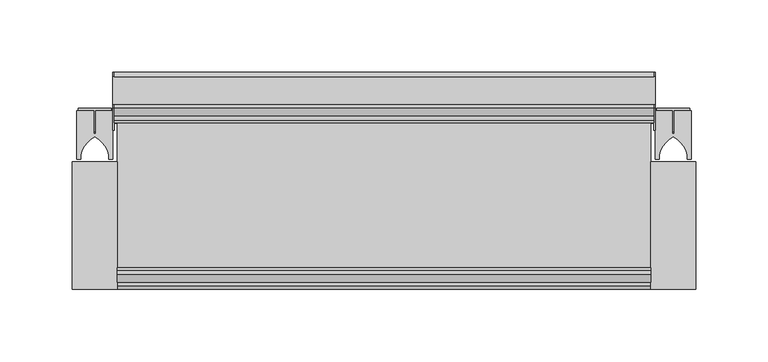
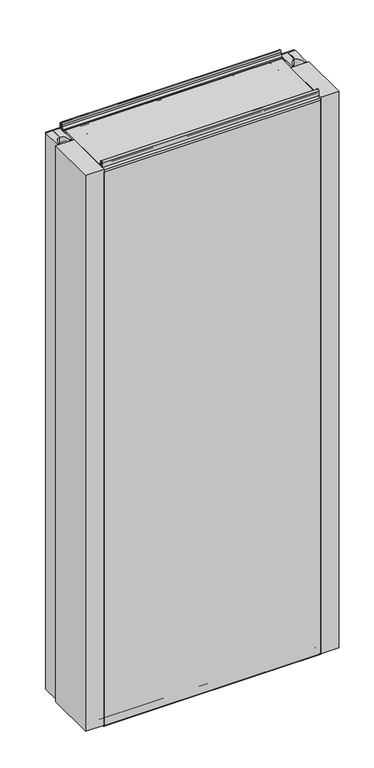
"""IFC4 building model written with IfcOpenShell, lengths in millimetres: plate geometry, Fronttop : Fronttop 150/1000."""

from ifc_helpers import new_model, si_unit, point, frame, frame_2d, origin, origin_with_axes, place, context, project, spatial, polyline, circle_curve, trimmed, segment, composite_curve, outline, extrude, source, transform, mapped, element, save
from ifc_brep_helpers import plane_surface, cylinder_surface, revolved_surface, advanced_brep


def plate_2fa59fed(model_context):
    return source(origin(), model_context, "Body", "SolidModel", [
        advanced_brep(
        [(-186.5, 124.0, 1008.0), (-186.5, 121.0, 1008.0), (-186.5, 121.0, 1004.0), (-186.5, 117.0, 1000.0), (-186.5, 115.0, 1000.0), (-186.5, 115.0, 1001.0), (-186.5, 117.0, 1001.0), (-186.5, 120.0, 1004.0), (-186.5, 120.0, 1008.0), (-186.5, 125.0, 1008.0), (-186.5, 125.0, 1000.0), (-186.5, 124.0, 1000.0), (186.5, 125.0, 1008.0), (186.5, 120.0, 1008.0), (186.5, 120.0, 1004.0), (186.5, 117.0, 1001.0), (186.5, 115.0, 1001.0), (186.5, 115.0, 1000.0), (186.5, 117.0, 1000.0), (186.5, 121.0, 1004.0), (186.5, 121.0, 1008.0), (186.5, 124.0, 1008.0), (186.5, 124.0, 1000.0), (186.5, 125.0, 1000.0), (-186.5, 117.0, 2.0), (186.5, 117.0, 2.0), (186.5, 115.0, 2.0), (-186.5, 115.0, 2.0), (-186.5, 119.0, 4.0), (186.5, 119.0, 4.0), (-186.5, 119.0, 8.0), (186.5, 119.0, 8.0), (-186.5, 126.0, 8.0), (186.5, 126.0, 8.0), (-186.5, 126.0, 0.0), (186.5, 126.0, 0.0), (-186.5, 129.0, -3.0), (186.5, 129.0, -3.0), (-186.5, 125.0, -3.0), (-187.5, 125.0, -3.0), (-187.5, 147.0, -3.0), (-186.5, 147.0, -3.0), (186.5, 147.0, -3.0), (187.5, 147.0, -3.0), (187.5, 125.0, -3.0), (186.5, 125.0, -3.0), (-186.5, 150.0, 0.0), (186.5, 150.0, 0.0), (-187.5, 150.0, 0.0), (-187.5, 150.0, 969.0), (-186.5, 150.0, 969.0), (186.5, 150.0, 969.0), (187.5, 150.0, 969.0), (187.5, 150.0, 0.0), (-186.5, 147.0, 972.0), (186.5, 147.0, 972.0), (-187.5, 147.0, 972.0), (-187.5, 128.0, 972.0), (-186.5, 128.0, 972.0), (186.5, 128.0, 972.0), (187.5, 128.0, 972.0), (187.5, 147.0, 972.0), (-186.5, 125.0, 975.0), (186.5, 125.0, 975.0), (-187.5, 125.0, 975.0), (-187.5, 125.0, 1000.0), (187.5, 125.0, 1000.0), (187.5, 125.0, 975.0), (-186.5, 124.0, 975.0), (186.5, 124.0, 975.0), (-186.5, 128.0, 971.0), (186.5, 128.0, 971.0), (-186.5, 147.0, 971.0), (186.5, 147.0, 971.0), (-186.5, 149.0, 969.0), (186.5, 149.0, 969.0), (-186.5, 149.0, 0.0), (186.5, 149.0, 0.0), (-186.5, 147.0, -2.0), (186.5, 147.0, -2.0), (-186.5, 129.0, -2.0), (186.5, 129.0, -2.0), (-186.5, 127.0, 0.0), (186.5, 127.0, 0.0), (-186.5, 127.0, 8.0), (186.5, 127.0, 8.0), (-186.5, 118.0, 8.0), (186.5, 118.0, 8.0), (-186.5, 118.0, 4.0), (186.5, 118.0, 4.0), (-186.5, 117.0, 3.0), (186.5, 117.0, 3.0), (-186.5, 115.0, 3.0), (186.5, 115.0, 3.0), (187.5, 110.0, 1000.0), (187.5, 110.0, 0.0), (187.5, 125.0, 0.0), (186.5, 125.0, 0.0), (186.5, 110.0, 0.0), (186.5, 110.0, 1000.0), (-187.5, 125.0, 0.0), (-187.5, 110.0, 0.0), (-187.5, 110.0, 1000.0), (-186.5, 110.0, 1000.0), (-186.5, 110.0, 0.0), (-186.5, 125.0, 0.0)],
        [
            (0, 1, circle_curve(frame((-186.5, 122.5, 1008.0), z_axis=(1.0, 0.0, 0.0), x_axis=(0.0, -1.0, 0.0)), 1.5)),
            (1, 2),
            (2, 3, circle_curve(frame((-186.5, 117.0, 1004.0), z_axis=(-1.0, 0.0, 0.0), x_axis=(0.0, -1.0, 0.0)), 4.0)),
            (3, 4),
            (4, 5),
            (5, 6),
            (6, 7, circle_curve(frame((-186.5, 117.0, 1004.0), z_axis=(1.0, 0.0, 0.0), x_axis=(0.0, -1.0, 0.0)), 3.0)),
            (7, 8),
            (8, 9, circle_curve(frame((-186.5, 122.5, 1008.0), z_axis=(-1.0, 0.0, 0.0), x_axis=(0.0, -1.0, 0.0)), 2.5)),
            (9, 10),
            (10, 11),
            (11, 0),
            (12, 13, circle_curve(frame((186.5, 122.5, 1008.0), z_axis=(1.0, 0.0, 0.0), x_axis=(0.0, -1.0, 0.0)), 2.5)),
            (13, 14),
            (14, 15, circle_curve(frame((186.5, 117.0, 1004.0), z_axis=(-1.0, 0.0, 0.0), x_axis=(0.0, -1.0, 0.0)), 3.0)),
            (15, 16),
            (16, 17),
            (17, 18),
            (18, 19, circle_curve(frame((186.5, 117.0, 1004.0), z_axis=(1.0, 0.0, 0.0), x_axis=(0.0, -1.0, 0.0)), 4.0)),
            (19, 20),
            (20, 21, circle_curve(frame((186.5, 122.5, 1008.0), z_axis=(-1.0, 0.0, 0.0), x_axis=(0.0, -1.0, 0.0)), 1.5)),
            (21, 22),
            (22, 23),
            (23, 12),
            (24, 25),
            (25, 26),
            (26, 27),
            (27, 24),
            (24, 28, circle_curve(frame((-186.5, 117.0, 4.0), z_axis=(1.0, 0.0, 0.0), x_axis=(0.0, -1.0, 0.0)), 2.0)),
            (28, 29),
            (29, 25, circle_curve(frame((186.5, 117.0, 4.0), z_axis=(-1.0, 0.0, 0.0), x_axis=(0.0, -1.0, 0.0)), 2.0)),
            (28, 30),
            (30, 31),
            (31, 29),
            (30, 32, circle_curve(frame((-186.5, 122.5, 8.0), z_axis=(-1.0, 0.0, 0.0), x_axis=(0.0, -1.0, 0.0)), 3.5)),
            (32, 33),
            (33, 31, circle_curve(frame((186.5, 122.5, 8.0), z_axis=(1.0, 0.0, 0.0), x_axis=(0.0, -1.0, 0.0)), 3.5)),
            (32, 34),
            (34, 35),
            (35, 33),
            (34, 36, circle_curve(frame((-186.5, 129.0, 0.0), z_axis=(1.0, 0.0, 0.0), x_axis=(0.0, -1.0, 0.0)), 3.0)),
            (36, 37),
            (37, 35, circle_curve(frame((186.5, 129.0, 0.0), z_axis=(-1.0, 0.0, 0.0), x_axis=(0.0, -1.0, 0.0)), 3.0)),
            (36, 38),
            (38, 39),
            (39, 40),
            (40, 41),
            (41, 42),
            (42, 43),
            (43, 44),
            (44, 45),
            (45, 37),
            (41, 46, circle_curve(frame((-186.5, 147.0, 0.0), z_axis=(1.0, 0.0, 0.0), x_axis=(0.0, -1.0, 0.0)), 3.0)),
            (46, 47),
            (47, 42, circle_curve(frame((186.5, 147.0, 0.0), z_axis=(-1.0, 0.0, 0.0), x_axis=(0.0, -1.0, 0.0)), 3.0)),
            (46, 48),
            (48, 49),
            (49, 50),
            (50, 51),
            (51, 52),
            (52, 53),
            (53, 47),
            (50, 54, circle_curve(frame((-186.5, 147.0, 969.0), z_axis=(1.0, 0.0, 0.0), x_axis=(0.0, -1.0, 0.0)), 3.0)),
            (54, 55),
            (55, 51, circle_curve(frame((186.5, 147.0, 969.0), z_axis=(-1.0, 0.0, 0.0), x_axis=(0.0, -1.0, 0.0)), 3.0)),
            (54, 56),
            (56, 57),
            (57, 58),
            (58, 59),
            (59, 60),
            (60, 61),
            (61, 55),
            (58, 62, circle_curve(frame((-186.5, 128.0, 975.0), z_axis=(-1.0, 0.0, 0.0), x_axis=(0.0, -1.0, 0.0)), 3.0)),
            (62, 63),
            (63, 59, circle_curve(frame((186.5, 128.0, 975.0), z_axis=(1.0, 0.0, 0.0), x_axis=(0.0, -1.0, 0.0)), 3.0)),
            (62, 64),
            (64, 65),
            (65, 10),
            (9, 12),
            (23, 66),
            (66, 67),
            (67, 63),
            (8, 13),
            (7, 14),
            (6, 15),
            (5, 16),
            (4, 17),
            (4, 3),
            (3, 18),
            (18, 17),
            (2, 19),
            (1, 20),
            (0, 21),
            (11, 68),
            (68, 69),
            (69, 22),
            (68, 70, circle_curve(frame((-186.5, 128.0, 975.0), z_axis=(1.0, 0.0, 0.0), x_axis=(0.0, -1.0, 0.0)), 4.0)),
            (70, 71),
            (71, 69, circle_curve(frame((186.5, 128.0, 975.0), z_axis=(-1.0, 0.0, 0.0), x_axis=(0.0, -1.0, 0.0)), 4.0)),
            (70, 72),
            (72, 73),
            (73, 71),
            (72, 74, circle_curve(frame((-186.5, 147.0, 969.0), z_axis=(-1.0, 0.0, 0.0), x_axis=(0.0, -1.0, 0.0)), 2.0)),
            (74, 75),
            (75, 73, circle_curve(frame((186.5, 147.0, 969.0), z_axis=(1.0, 0.0, 0.0), x_axis=(0.0, -1.0, 0.0)), 2.0)),
            (74, 76),
            (76, 77),
            (77, 75),
            (76, 78, circle_curve(frame((-186.5, 147.0, 0.0), z_axis=(-1.0, 0.0, 0.0), x_axis=(0.0, -1.0, 0.0)), 2.0)),
            (78, 79),
            (79, 77, circle_curve(frame((186.5, 147.0, 0.0), z_axis=(1.0, 0.0, 0.0), x_axis=(0.0, -1.0, 0.0)), 2.0)),
            (78, 80),
            (80, 81),
            (81, 79),
            (80, 82, circle_curve(frame((-186.5, 129.0, 0.0), z_axis=(-1.0, 0.0, 0.0), x_axis=(0.0, -1.0, 0.0)), 2.0)),
            (82, 83),
            (83, 81, circle_curve(frame((186.5, 129.0, 0.0), z_axis=(1.0, 0.0, 0.0), x_axis=(0.0, -1.0, 0.0)), 2.0)),
            (82, 84),
            (84, 85),
            (85, 83),
            (84, 86, circle_curve(frame((-186.5, 122.5, 8.0), z_axis=(1.0, 0.0, 0.0), x_axis=(0.0, -1.0, 0.0)), 4.5)),
            (86, 87),
            (87, 85, circle_curve(frame((186.5, 122.5, 8.0), z_axis=(-1.0, 0.0, 0.0), x_axis=(0.0, -1.0, 0.0)), 4.5)),
            (86, 88),
            (88, 89),
            (89, 87),
            (88, 90, circle_curve(frame((-186.5, 117.0, 4.0), z_axis=(-1.0, 0.0, 0.0), x_axis=(0.0, -1.0, 0.0)), 1.0)),
            (90, 91),
            (91, 89, circle_curve(frame((186.5, 117.0, 4.0), z_axis=(1.0, 0.0, 0.0), x_axis=(0.0, -1.0, 0.0)), 1.0)),
            (90, 92),
            (92, 93),
            (93, 91),
            (26, 93),
            (92, 27),
            (66, 94),
            (94, 95),
            (95, 96),
            (96, 44),
            (43, 53, circle_curve(frame((187.5, 147.0, 0.0), z_axis=(1.0, 0.0, 0.0), x_axis=(0.0, 1.0, 0.0)), 3.0)),
            (52, 61, circle_curve(frame((187.5, 147.0, 969.0), z_axis=(1.0, 0.0, 0.0), x_axis=(0.0, 1.0, 0.0)), 3.0)),
            (60, 67, circle_curve(frame((187.5, 128.0, 975.0), z_axis=(-1.0, 0.0, 0.0), x_axis=(0.0, 1.0, 0.0)), 3.0)),
            (45, 97),
            (97, 98),
            (98, 99),
            (99, 17),
            (18, 22),
            (99, 94),
            (98, 95),
            (97, 96),
            (64, 57, circle_curve(frame((-187.5, 128.0, 975.0), z_axis=(1.0, 0.0, 0.0), x_axis=(0.0, 1.0, 0.0)), 3.0)),
            (56, 49, circle_curve(frame((-187.5, 147.0, 969.0), z_axis=(-1.0, 0.0, 0.0), x_axis=(0.0, 1.0, 0.0)), 3.0)),
            (48, 40, circle_curve(frame((-187.5, 147.0, 0.0), z_axis=(-1.0, 0.0, 0.0), x_axis=(0.0, 1.0, 0.0)), 3.0)),
            (39, 100),
            (100, 101),
            (101, 102),
            (102, 65),
            (103, 104),
            (104, 105),
            (105, 38),
            (11, 3),
            (4, 103),
            (102, 103),
            (101, 104),
            (100, 105),
        ],
        [
            plane_surface(frame((-186.5, 0.0, 0.0), z_axis=(-1.0, 0.0, 0.0), x_axis=(0.0, 0.0, 1.0))),
            plane_surface(frame((186.5, 0.0, 0.0), z_axis=(1.0, 0.0, 0.0), x_axis=(0.0, 0.0, 1.0))),
            plane_surface(frame((-186.5, 117.0, 2.0), z_axis=(0.0, 0.0, -1.0), x_axis=(1.0, 0.0, 0.0))),
            cylinder_surface(frame((-186.5, 117.0, 4.0), z_axis=(-1.0, 0.0, 0.0), x_axis=(0.0, -1.0, 0.0)), 2.0),
            plane_surface(frame((-186.5, 119.0, 8.0), z_axis=(0.0, 1.0, 0.0), x_axis=(1.0, 0.0, 0.0))),
            revolved_surface(polyline([(186.5, 119.0, 8.0), (-186.5, 119.0, 8.0)]), (-186.5, 122.5, 8.0), (1.0, 0.0, 0.0)),
            plane_surface(frame((-186.5, 126.0, 0.0), z_axis=(0.0, -1.0, 0.0), x_axis=(1.0, 0.0, 0.0))),
            cylinder_surface(frame((-186.5, 129.0, 0.0), z_axis=(-1.0, 0.0, 0.0), x_axis=(0.0, -1.0, 0.0)), 3.0),
            plane_surface(frame((-186.5, 147.0, -3.0), z_axis=(0.0, 0.0, -1.0), x_axis=(1.0, 0.0, 0.0))),
            cylinder_surface(frame((-186.5, 147.0, 0.0), z_axis=(-1.0, 0.0, 0.0), x_axis=(0.0, -1.0, 0.0)), 3.0),
            plane_surface(frame((-186.5, 150.0, 969.0), z_axis=(0.0, 1.0, 0.0), x_axis=(1.0, 0.0, 0.0))),
            cylinder_surface(frame((-186.5, 147.0, 969.0), z_axis=(-1.0, 0.0, 0.0), x_axis=(0.0, -1.0, 0.0)), 3.0),
            plane_surface(frame((-186.5, 128.0, 972.0), z_axis=(0.0, 0.0, 1.0), x_axis=(1.0, 0.0, 0.0))),
            revolved_surface(polyline([(186.5, 125.0, 975.0), (-186.5, 125.0, 975.0)]), (-186.5, 128.0, 975.0), (1.0, 0.0, 0.0)),
            plane_surface(frame((-186.5, 125.0, 1008.0), z_axis=(0.0, 1.0, 0.0), x_axis=(1.0, 0.0, 0.0))),
            cylinder_surface(frame((-186.5, 122.5, 1008.0), z_axis=(-1.0, 0.0, 0.0), x_axis=(0.0, -1.0, 0.0)), 2.5),
            plane_surface(frame((-186.5, 120.0, 1004.0), z_axis=(0.0, -1.0, 0.0), x_axis=(1.0, 0.0, 0.0))),
            revolved_surface(polyline([(186.5, 114.0, 1004.0), (-186.5, 114.0, 1004.0)]), (-186.5, 117.0, 1004.0), (1.0, 0.0, 0.0)),
            plane_surface(frame((-186.5, 115.0, 1001.0), z_axis=(0.0, 0.0, 1.0), x_axis=(1.0, 0.0, 0.0))),
            plane_surface(frame((-186.5, 115.0, 1000.0), z_axis=(0.0, -1.0, 0.0), x_axis=(1.0, 0.0, 0.0))),
            plane_surface(frame((-186.5, 117.0, 1000.0), z_axis=(0.0, 0.0, -1.0), x_axis=(1.0, 0.0, 0.0))),
            cylinder_surface(frame((-186.5, 117.0, 1004.0), z_axis=(-1.0, 0.0, 0.0), x_axis=(0.0, -1.0, 0.0)), 4.0),
            plane_surface(frame((-186.5, 121.0, 1008.0), z_axis=(0.0, 1.0, 0.0), x_axis=(1.0, 0.0, 0.0))),
            revolved_surface(polyline([(186.5, 121.0, 1008.0), (-186.5, 121.0, 1008.0)]), (-186.5, 122.5, 1008.0), (1.0, 0.0, 0.0)),
            plane_surface(frame((-186.5, 124.0, 975.0), z_axis=(0.0, -1.0, 0.0), x_axis=(1.0, 0.0, 0.0))),
            cylinder_surface(frame((-186.5, 128.0, 975.0), z_axis=(-1.0, 0.0, 0.0), x_axis=(0.0, -1.0, 0.0)), 4.0),
            plane_surface(frame((-186.5, 147.0, 971.0), z_axis=(0.0, 0.0, -1.0), x_axis=(1.0, 0.0, 0.0))),
            revolved_surface(polyline([(186.5, 145.0, 969.0), (-186.5, 145.0, 969.0)]), (-186.5, 147.0, 969.0), (1.0, 0.0, 0.0)),
            plane_surface(frame((-186.5, 149.0, 0.0), z_axis=(0.0, -1.0, 0.0), x_axis=(1.0, 0.0, 0.0))),
            revolved_surface(polyline([(186.5, 145.0, 0.0), (-186.5, 145.0, 0.0)]), (-186.5, 147.0, 0.0), (1.0, 0.0, 0.0)),
            plane_surface(frame((-186.5, 129.0, -2.0), z_axis=(0.0, 0.0, 1.0), x_axis=(1.0, 0.0, 0.0))),
            revolved_surface(polyline([(186.5, 127.0, 0.0), (-186.5, 127.0, 0.0)]), (-186.5, 129.0, 0.0), (1.0, 0.0, 0.0)),
            plane_surface(frame((-186.5, 127.0, 8.0), z_axis=(0.0, 1.0, 0.0), x_axis=(1.0, 0.0, 0.0))),
            cylinder_surface(frame((-186.5, 122.5, 8.0), z_axis=(-1.0, 0.0, 0.0), x_axis=(0.0, -1.0, 0.0)), 4.5),
            plane_surface(frame((-186.5, 118.0, 4.0), z_axis=(0.0, -1.0, 0.0), x_axis=(1.0, 0.0, 0.0))),
            revolved_surface(polyline([(186.5, 116.0, 4.0), (-186.5, 116.0, 4.0)]), (-186.5, 117.0, 4.0), (1.0, 0.0, 0.0)),
            plane_surface(frame((-186.5, 115.0, 3.0), z_axis=(0.0, 0.0, 1.0), x_axis=(1.0, 0.0, 0.0))),
            plane_surface(frame((-186.5, 115.0, 2.0), z_axis=(0.0, -1.0, 0.0), x_axis=(1.0, 0.0, 0.0))),
            plane_surface(frame((187.5, 125.0, 1000.0), z_axis=(1.0, 0.0, 0.0), x_axis=(0.0, -1.0, 0.0))),
            plane_surface(frame((186.5, 125.0, 1000.0), z_axis=(-1.0, 0.0, 0.0), x_axis=(0.0, 1.0, 0.0))),
            plane_surface(frame((187.5, 125.0, 1000.0), z_axis=(0.0, 0.0, 1.0), x_axis=(-1.0, 0.0, 0.0))),
            plane_surface(frame((187.5, 110.0, 1000.0), z_axis=(0.0, -1.0, 0.0), x_axis=(-1.0, 0.0, 0.0))),
            plane_surface(frame((187.5, 110.0, 0.0), z_axis=(0.0, 0.0, -1.0), x_axis=(-1.0, 0.0, 0.0))),
            cylinder_surface(frame((186.5, 147.0, 0.0), z_axis=(1.0, 0.0, 0.0), x_axis=(0.0, 1.0, 0.0)), 3.0),
            cylinder_surface(frame((186.5, 147.0, 969.0), z_axis=(1.0, 0.0, 0.0), x_axis=(0.0, 1.0, 0.0)), 3.0),
            revolved_surface(polyline([(186.5, 131.0, 975.0), (187.5, 131.0, 975.0)]), (186.5, 128.0, 975.0), (-1.0, 0.0, 0.0)),
            plane_surface(frame((-187.5, 125.0, 1000.0), z_axis=(-1.0, 0.0, 0.0), x_axis=(0.0, 1.0, 0.0))),
            plane_surface(frame((-186.5, 125.0, 1000.0), z_axis=(1.0, 0.0, 0.0), x_axis=(0.0, -1.0, 0.0))),
            plane_surface(frame((-186.5, 125.0, 1000.0), z_axis=(0.0, 0.0, 1.0), x_axis=(-1.0, 0.0, 0.0))),
            plane_surface(frame((-186.5, 110.0, 1000.0), z_axis=(0.0, -1.0, 0.0), x_axis=(-1.0, 0.0, 0.0))),
            plane_surface(frame((-186.5, 110.0, 0.0), z_axis=(0.0, 0.0, -1.0), x_axis=(-1.0, 0.0, 0.0))),
            cylinder_surface(frame((-187.5, 147.0, 0.0), z_axis=(1.0, 0.0, 0.0), x_axis=(0.0, 1.0, 0.0)), 3.0),
            cylinder_surface(frame((-187.5, 147.0, 969.0), z_axis=(1.0, 0.0, 0.0), x_axis=(0.0, 1.0, 0.0)), 3.0),
            revolved_surface(polyline([(-187.5, 131.0, 975.0), (-186.5, 131.0, 975.0)]), (-187.5, 128.0, 975.0), (-1.0, 0.0, 0.0)),
            plane_surface(frame((187.5, 125.0, 0.0), z_axis=(0.0, -1.0, 0.0), x_axis=(-1.0, 0.0, 0.0))),
            plane_surface(frame((-186.5, 125.0, 0.0), z_axis=(0.0, -1.0, 0.0), x_axis=(-1.0, 0.0, 0.0))),
        ],
        [
            (0, [[1, 2, 3, 4, 5, 6, 7, 8, 9, 10, 11, 12]]),
            (1, [[13, 14, 15, 16, 17, 18, 19, 20, 21, 22, 23, 24]]),
            (2, [[25, 26, 27, 28]]),
            (3, [[-25, 29, 30, 31]]),
            (4, [[-30, 32, 33, 34]]),
            (5, [[-33, 35, 36, 37]]),
            (6, [[-36, 38, 39, 40]]),
            (7, [[-39, 41, 42, 43]]),
            (8, [[-42, 44, 45, 46, 47, 48, 49, 50, 51, 52]]),
            (9, [[-48, 53, 54, 55]]),
            (10, [[-54, 56, 57, 58, 59, 60, 61, 62]]),
            (11, [[-59, 63, 64, 65]]),
            (12, [[-64, 66, 67, 68, 69, 70, 71, 72]]),
            (13, [[-69, 73, 74, 75]]),
            (14, [[-74, 76, 77, 78, -10, 79, -24, 80, 81, 82]]),
            (15, [[-9, 83, -13, -79]]),
            (16, [[-8, 84, -14, -83]]),
            (17, [[-7, 85, -15, -84]]),
            (18, [[-6, 86, -16, -85]]),
            (19, [[-5, 87, -17, -86]]),
            (20, [[-87, 88, 89, 90]]),
            (21, [[-3, 91, -19, -89]]),
            (22, [[-2, 92, -20, -91]]),
            (23, [[-1, 93, -21, -92]]),
            (24, [[-93, -12, 94, 95, 96, -22]]),
            (25, [[-95, 97, 98, 99]]),
            (26, [[-98, 100, 101, 102]]),
            (27, [[-101, 103, 104, 105]]),
            (28, [[-104, 106, 107, 108]]),
            (29, [[-107, 109, 110, 111]]),
            (30, [[-110, 112, 113, 114]]),
            (31, [[-113, 115, 116, 117]]),
            (32, [[-116, 118, 119, 120]]),
            (33, [[-119, 121, 122, 123]]),
            (34, [[-122, 124, 125, 126]]),
            (35, [[-125, 127, 128, 129]]),
            (36, [[-128, 130, 131, 132]]),
            (37, [[-27, 133, -131, 134]]),
            (38, [[135, 136, 137, 138, -50, 139, -61, 140, -71, 141, -81]]),
            (39, [[142, 143, 144, 145, -90, 146, -96, -99, -102, -105, -108, -111, -114, -117, -120, -123, -126, -129, -132, -133, -26, -31, -34, -37, -40, -43, -52]]),
            (40, [[-135, -80, -23, -146, -18, -145, 147]]),
            (41, [[-136, -147, -144, 148]]),
            (42, [[-137, -148, -143, 149]]),
            (43, [[-139, -49, -55, -62]]),
            (44, [[-140, -60, -65, -72]]),
            (45, [[-141, -70, -75, -82]]),
            (46, [[-77, 150, -67, 151, -57, 152, -46, 153, 154, 155, 156]]),
            (47, [[157, 158, 159, -44, -41, -38, -35, -32, -29, -28, -134, -130, -127, -124, -121, -118, -115, -112, -109, -106, -103, -100, -97, -94, 160, -88, 161]]),
            (48, [[-156, 162, -161, -4, -160, -11, -78]]),
            (49, [[-155, 163, -157, -162]]),
            (50, [[-154, 164, -158, -163]]),
            (51, [[-152, -56, -53, -47]]),
            (52, [[-151, -66, -63, -58]]),
            (53, [[-150, -76, -73, -68]]),
            (54, [[-138, -149, -142, -51]]),
            (55, [[-153, -45, -159, -164]]),
        ],
    ),
        extrude(outline(composite_curve([segment(polyline([(-212.5001545, 123.5), (-200.75, 123.5), (-200.75, 107.5), (-199.25, 107.5), (-199.25, 123.5), (-187.4998455, 123.5), (-187.4998455, 90.0), (-190.25, 90.0), (-190.25, 92.5)]), True, "CONTINUOUS"), segment(trimmed(circle_curve(frame_2d((-208.0338021, 89.3183984)), 18.0661619), [point((-190.25, 92.5))], [point((-200.0, 105.5))], True, "CARTESIAN"), True, "CONTINUOUS"), segment(trimmed(circle_curve(frame_2d((-191.9661979, 89.3183984)), 18.0661619), [point((-200.0, 105.5))], [point((-209.75, 92.5))], True, "CARTESIAN"), True, "CONTINUOUS"), segment(polyline([(-209.75, 92.5), (-209.75, 90.0), (-212.5001545, 90.0), (-212.5001545, 123.5)]), True, "CONTINUOUS")], self_intersect=False)), origin_with_axes(), (0.0, 0.0, 1.0), 1000.0),
        extrude(outline(polyline([(-184.5, 0.0), (-215.5, 0.0), (-215.5, 88.0), (-184.5, 88.0), (-184.5, 0.0)])), origin_with_axes(), (0.0, 0.0, 1.0), 1000.0),
        extrude(outline(polyline([(-211.5051154, 125.0), (-188.4948846, 125.0), (-188.4948846, 123.5), (-199.3497504, 123.5), (-199.3497504, 109.0759655), (-200.65, 109.0759655), (-200.65, 123.5), (-211.5051154, 123.5), (-211.5051154, 125.0)])), origin_with_axes(), (0.0, 0.0, 1.0), 1000.0),
        extrude(outline(composite_curve([segment(polyline([(187.4998455, 123.5), (199.25, 123.5), (199.25, 107.5), (200.75, 107.5), (200.75, 123.5), (212.5001545, 123.5), (212.5001545, 90.0), (209.75, 90.0), (209.75, 92.5)]), True, "CONTINUOUS"), segment(trimmed(circle_curve(frame_2d((191.9661979, 89.3183984)), 18.0661619), [point((209.75, 92.5))], [point((200.0, 105.5))], True, "CARTESIAN"), True, "CONTINUOUS"), segment(trimmed(circle_curve(frame_2d((208.0338021, 89.3183984)), 18.0661619), [point((200.0, 105.5))], [point((190.25, 92.5))], True, "CARTESIAN"), True, "CONTINUOUS"), segment(polyline([(190.25, 92.5), (190.25, 90.0), (187.4998455, 90.0), (187.4998455, 123.5)]), True, "CONTINUOUS")], self_intersect=False)), origin_with_axes(), (0.0, 0.0, 1.0), 1000.0),
        extrude(outline(polyline([(215.5, 0.0), (184.5, 0.0), (184.5, 88.0), (215.5, 88.0), (215.5, 0.0)])), origin_with_axes(), (0.0, 0.0, 1.0), 1000.0),
        extrude(outline(polyline([(188.4948846, 125.0), (211.5051154, 125.0), (211.5051154, 123.5), (200.6502496, 123.5), (200.6502496, 109.0759655), (199.35, 109.0759655), (199.35, 123.5), (188.4948846, 123.5), (188.4948846, 125.0)])), origin_with_axes(), (0.0, 0.0, 1.0), 1000.0),
        advanced_brep(
        [(-184.5, 13.0, 1001.0), (-184.5, 15.0, 1001.0), (-184.5, 15.0, 1000.0), (-184.5, 13.0, 1000.0), (-184.5, 9.0, 1004.0), (-184.5, 9.0, 1008.0), (-184.5, 6.0, 1008.0), (-184.5, 6.0, 999.5), (-184.5, 2.1134897, 996.0214069), (-184.5, 1.0, 995.0), (-184.5, 1.0, -0.5), (-184.5, 3.0, -0.5), (-184.5, 3.0, 8.0), (-184.5, 12.0, 8.0), (-184.5, 12.0, 4.0), (-184.5, 13.0, 3.0), (-184.5, 15.0, 3.0), (-184.5, 15.0, 2.0), (-184.5, 13.0, 2.0), (-184.5, 11.0, 4.0), (-184.5, 11.0, 8.0), (-184.5, 4.0, 8.0), (-184.5, 4.0, -0.5), (-184.5, 0.0, -0.5), (-184.5, 0.0, 995.0), (-184.5, 2.220863, 996.9877675), (-184.5, 5.0, 999.5), (-184.5, 5.0, 1008.0), (-184.5, 10.0, 1008.0), (-184.5, 10.0, 1004.0), (184.5, 13.0, 1001.0), (184.5, 10.0, 1004.0), (184.5, 10.0, 1008.0), (184.5, 5.0, 1008.0), (184.5, 5.0, 999.5), (184.5, 2.2239212, 997.0152907), (184.5, 0.0, 995.0), (184.5, 0.0, -0.5), (184.5, 4.0, -0.5), (184.5, 4.0, 8.0), (184.5, 11.0, 8.0), (184.5, 11.0, 4.0), (184.5, 13.0, 2.0), (184.5, 15.0, 2.0), (184.5, 15.0, 3.0), (184.5, 13.0, 3.0), (184.5, 12.0, 4.0), (184.5, 12.0, 8.0), (184.5, 3.0, 8.0), (184.5, 3.0, -0.5), (184.5, 1.0, -0.5), (184.5, 1.0, 995.0), (184.5, 2.1104315, 995.9938837), (184.5, 6.0, 999.5), (184.5, 6.0, 1008.0), (184.5, 9.0, 1008.0), (184.5, 9.0, 1004.0), (184.5, 13.0, 1000.0), (184.5, 15.0, 1000.0), (184.5, 15.0, 1001.0)],
        [
            (0, 1),
            (1, 2),
            (2, 3),
            (3, 4, circle_curve(frame((-184.5, 13.0, 1004.0), z_axis=(-1.0, 0.0, 0.0), x_axis=(0.0, -1.0, 0.0)), 4.0)),
            (4, 5),
            (5, 6, circle_curve(frame((-184.5, 7.5, 1008.0), z_axis=(1.0, 0.0, 0.0), x_axis=(0.0, -1.0, 0.0)), 1.5)),
            (6, 7),
            (7, 8, circle_curve(frame((-184.5, 2.5, 999.5), z_axis=(-1.0, 0.0, 0.0), x_axis=(0.0, -1.0, 0.0)), 3.5)),
            (8, 9, circle_curve(frame((-184.5, 2.0, 995.0), z_axis=(1.0, 0.0, 0.0), x_axis=(0.0, -1.0, 0.0)), 1.0)),
            (9, 10),
            (10, 11, circle_curve(frame((-184.5, 2.0, -0.5), z_axis=(1.0, 0.0, 0.0), x_axis=(0.0, -1.0, 0.0)), 1.0)),
            (11, 12),
            (12, 13, circle_curve(frame((-184.5, 7.5, 8.0), z_axis=(-1.0, 0.0, 0.0), x_axis=(0.0, -1.0, 0.0)), 4.5)),
            (13, 14),
            (14, 15, circle_curve(frame((-184.5, 13.0, 4.0), z_axis=(1.0, 0.0, 0.0), x_axis=(0.0, -1.0, 0.0)), 1.0)),
            (15, 16),
            (16, 17),
            (17, 18),
            (18, 19, circle_curve(frame((-184.5, 13.0, 4.0), z_axis=(-1.0, 0.0, 0.0), x_axis=(0.0, -1.0, 0.0)), 2.0)),
            (19, 20),
            (20, 21, circle_curve(frame((-184.5, 7.5, 8.0), z_axis=(1.0, 0.0, 0.0), x_axis=(0.0, -1.0, 0.0)), 3.5)),
            (21, 22),
            (22, 23, circle_curve(frame((-184.5, 2.0, -0.5), z_axis=(-1.0, 0.0, 0.0), x_axis=(0.0, -1.0, 0.0)), 2.0)),
            (23, 24),
            (24, 25, circle_curve(frame((-184.5, 2.0, 995.0), z_axis=(-1.0, 0.0, 0.0), x_axis=(0.0, -1.0, 0.0)), 2.0)),
            (25, 26, circle_curve(frame((-184.5, 2.5, 999.5), z_axis=(1.0, 0.0, 0.0), x_axis=(0.0, -1.0, 0.0)), 2.5)),
            (26, 27),
            (27, 28, circle_curve(frame((-184.5, 7.5, 1008.0), z_axis=(-1.0, 0.0, 0.0), x_axis=(0.0, -1.0, 0.0)), 2.5)),
            (28, 29),
            (29, 0, circle_curve(frame((-184.5, 13.0, 1004.0), z_axis=(1.0, 0.0, 0.0), x_axis=(0.0, -1.0, 0.0)), 3.0)),
            (30, 31, circle_curve(frame((184.5, 13.0, 1004.0), z_axis=(-1.0, 0.0, 0.0), x_axis=(0.0, -1.0, 0.0)), 3.0)),
            (31, 32),
            (32, 33, circle_curve(frame((184.5, 7.5, 1008.0), z_axis=(1.0, 0.0, 0.0), x_axis=(0.0, -1.0, 0.0)), 2.5)),
            (33, 34),
            (34, 35, circle_curve(frame((184.5, 2.5, 999.5), z_axis=(-1.0, 0.0, 0.0), x_axis=(0.0, -1.0, 0.0)), 2.5)),
            (35, 36, circle_curve(frame((184.5, 2.0, 995.0), z_axis=(1.0, 0.0, 0.0), x_axis=(0.0, -1.0, 0.0)), 2.0)),
            (36, 37),
            (37, 38, circle_curve(frame((184.5, 2.0, -0.5), z_axis=(1.0, 0.0, 0.0), x_axis=(0.0, -1.0, 0.0)), 2.0)),
            (38, 39),
            (39, 40, circle_curve(frame((184.5, 7.5, 8.0), z_axis=(-1.0, 0.0, 0.0), x_axis=(0.0, -1.0, 0.0)), 3.5)),
            (40, 41),
            (41, 42, circle_curve(frame((184.5, 13.0, 4.0), z_axis=(1.0, 0.0, 0.0), x_axis=(0.0, -1.0, 0.0)), 2.0)),
            (42, 43),
            (43, 44),
            (44, 45),
            (45, 46, circle_curve(frame((184.5, 13.0, 4.0), z_axis=(-1.0, 0.0, 0.0), x_axis=(0.0, -1.0, 0.0)), 1.0)),
            (46, 47),
            (47, 48, circle_curve(frame((184.5, 7.5, 8.0), z_axis=(1.0, 0.0, 0.0), x_axis=(0.0, -1.0, 0.0)), 4.5)),
            (48, 49),
            (49, 50, circle_curve(frame((184.5, 2.0, -0.5), z_axis=(-1.0, 0.0, 0.0), x_axis=(0.0, -1.0, 0.0)), 1.0)),
            (50, 51),
            (51, 52, circle_curve(frame((184.5, 2.0, 995.0), z_axis=(-1.0, 0.0, 0.0), x_axis=(0.0, -1.0, 0.0)), 1.0)),
            (52, 53, circle_curve(frame((184.5, 2.5, 999.5), z_axis=(1.0, 0.0, 0.0), x_axis=(0.0, -1.0, 0.0)), 3.5)),
            (53, 54),
            (54, 55, circle_curve(frame((184.5, 7.5, 1008.0), z_axis=(-1.0, 0.0, 0.0), x_axis=(0.0, -1.0, 0.0)), 1.5)),
            (55, 56),
            (56, 57, circle_curve(frame((184.5, 13.0, 1004.0), z_axis=(1.0, 0.0, 0.0), x_axis=(0.0, -1.0, 0.0)), 4.0)),
            (57, 58),
            (58, 59),
            (59, 30),
            (0, 30),
            (59, 1),
            (58, 2),
            (57, 3),
            (56, 4),
            (55, 5),
            (54, 6),
            (53, 7),
            (52, 8),
            (51, 9),
            (50, 10),
            (49, 11),
            (48, 12),
            (47, 13),
            (46, 14),
            (45, 15),
            (44, 16),
            (43, 17),
            (42, 18),
            (41, 19),
            (40, 20),
            (39, 21),
            (38, 22),
            (37, 23),
            (36, 24),
            (35, 25),
            (34, 26),
            (33, 27),
            (32, 28),
            (31, 29),
        ],
        [
            plane_surface(frame((-184.5, 0.0, 0.0), z_axis=(-1.0, 0.0, 0.0), x_axis=(0.0, 0.0, 1.0))),
            plane_surface(frame((184.5, 0.0, 0.0), z_axis=(1.0, 0.0, 0.0), x_axis=(0.0, 0.0, 1.0))),
            plane_surface(frame((-184.5, 13.0, 1001.0), z_axis=(0.0, 0.0, 1.0), x_axis=(1.0, 0.0, 0.0))),
            plane_surface(frame((-184.5, 15.0, 1001.0), z_axis=(0.0, 1.0, 0.0), x_axis=(1.0, 0.0, 0.0))),
            plane_surface(frame((-184.5, 15.0, 1000.0), z_axis=(0.0, 0.0, -1.0), x_axis=(1.0, 0.0, 0.0))),
            cylinder_surface(frame((-184.5, 13.0, 1004.0), z_axis=(-1.0, 0.0, 0.0), x_axis=(0.0, -1.0, 0.0)), 4.0),
            plane_surface(frame((-184.5, 9.0, 1004.0), z_axis=(0.0, -1.0, 0.0), x_axis=(1.0, 0.0, 0.0))),
            revolved_surface(polyline([(184.5, 6.0, 1008.0), (-184.5, 6.0, 1008.0)]), (-184.5, 7.5, 1008.0), (1.0, 0.0, 0.0)),
            plane_surface(frame((-184.5, 6.0, 1008.0), z_axis=(0.0, 1.0, 0.0), x_axis=(1.0, 0.0, 0.0))),
            cylinder_surface(frame((-184.5, 2.5, 999.5), z_axis=(-1.0, 0.0, 0.0), x_axis=(0.0, -1.0, 0.0)), 3.5),
            revolved_surface(polyline([(184.5, 1.0, 995.0), (-184.5, 1.0, 995.0)]), (-184.5, 2.0, 995.0), (1.0, 0.0, 0.0)),
            plane_surface(frame((-184.5, 1.0, 995.0), z_axis=(0.0, 1.0, 0.0), x_axis=(1.0, 0.0, 0.0))),
            revolved_surface(polyline([(184.5, 1.0, -0.5), (-184.5, 1.0, -0.5)]), (-184.5, 2.0, -0.5), (1.0, 0.0, 0.0)),
            plane_surface(frame((-184.5, 3.0, -0.5), z_axis=(0.0, -1.0, 0.0), x_axis=(1.0, 0.0, 0.0))),
            cylinder_surface(frame((-184.5, 7.5, 8.0), z_axis=(-1.0, 0.0, 0.0), x_axis=(0.0, -1.0, 0.0)), 4.5),
            plane_surface(frame((-184.5, 12.0, 8.0), z_axis=(0.0, 1.0, 0.0), x_axis=(1.0, 0.0, 0.0))),
            revolved_surface(polyline([(184.5, 12.0, 4.0), (-184.5, 12.0, 4.0)]), (-184.5, 13.0, 4.0), (1.0, 0.0, 0.0)),
            plane_surface(frame((-184.5, 13.0, 3.0), z_axis=(0.0, 0.0, 1.0), x_axis=(1.0, 0.0, 0.0))),
            plane_surface(frame((-184.5, 15.0, 3.0), z_axis=(0.0, 1.0, 0.0), x_axis=(1.0, 0.0, 0.0))),
            plane_surface(frame((-184.5, 15.0, 2.0), z_axis=(0.0, 0.0, -1.0), x_axis=(1.0, 0.0, 0.0))),
            cylinder_surface(frame((-184.5, 13.0, 4.0), z_axis=(-1.0, 0.0, 0.0), x_axis=(0.0, -1.0, 0.0)), 2.0),
            plane_surface(frame((-184.5, 11.0, 4.0), z_axis=(0.0, -1.0, 0.0), x_axis=(1.0, 0.0, 0.0))),
            revolved_surface(polyline([(184.5, 4.0, 8.0), (-184.5, 4.0, 8.0)]), (-184.5, 7.5, 8.0), (1.0, 0.0, 0.0)),
            plane_surface(frame((-184.5, 4.0, 8.0), z_axis=(0.0, 1.0, 0.0), x_axis=(1.0, 0.0, 0.0))),
            cylinder_surface(frame((-184.5, 2.0, -0.5), z_axis=(-1.0, 0.0, 0.0), x_axis=(0.0, -1.0, 0.0)), 2.0),
            plane_surface(frame((-184.5, 0.0, -0.5), z_axis=(0.0, -1.0, 0.0), x_axis=(1.0, 0.0, 0.0))),
            cylinder_surface(frame((-184.5, 2.0, 995.0), z_axis=(-1.0, 0.0, 0.0), x_axis=(0.0, -1.0, 0.0)), 2.0),
            revolved_surface(polyline([(184.5, 0.0, 999.5), (-184.5, 0.0, 999.5)]), (-184.5, 2.5, 999.5), (1.0, 0.0, 0.0)),
            plane_surface(frame((-184.5, 5.0, 999.5), z_axis=(0.0, -1.0, 0.0), x_axis=(1.0, 0.0, 0.0))),
            cylinder_surface(frame((-184.5, 7.5, 1008.0), z_axis=(-1.0, 0.0, 0.0), x_axis=(0.0, -1.0, 0.0)), 2.5),
            plane_surface(frame((-184.5, 10.0, 1008.0), z_axis=(0.0, 1.0, 0.0), x_axis=(1.0, 0.0, 0.0))),
            revolved_surface(polyline([(184.5, 10.0, 1004.0), (-184.5, 10.0, 1004.0)]), (-184.5, 13.0, 1004.0), (1.0, 0.0, 0.0)),
        ],
        [
            (0, [[1, 2, 3, 4, 5, 6, 7, 8, 9, 10, 11, 12, 13, 14, 15, 16, 17, 18, 19, 20, 21, 22, 23, 24, 25, 26, 27, 28, 29, 30]]),
            (1, [[31, 32, 33, 34, 35, 36, 37, 38, 39, 40, 41, 42, 43, 44, 45, 46, 47, 48, 49, 50, 51, 52, 53, 54, 55, 56, 57, 58, 59, 60]]),
            (2, [[-1, 61, -60, 62]]),
            (3, [[-2, -62, -59, 63]]),
            (4, [[-3, -63, -58, 64]]),
            (5, [[-4, -64, -57, 65]]),
            (6, [[-5, -65, -56, 66]]),
            (7, [[-6, -66, -55, 67]]),
            (8, [[-7, -67, -54, 68]]),
            (9, [[-8, -68, -53, 69]]),
            (10, [[-9, -69, -52, 70]]),
            (11, [[-10, -70, -51, 71]]),
            (12, [[-11, -71, -50, 72]]),
            (13, [[-12, -72, -49, 73]]),
            (14, [[-13, -73, -48, 74]]),
            (15, [[-14, -74, -47, 75]]),
            (16, [[-15, -75, -46, 76]]),
            (17, [[-16, -76, -45, 77]]),
            (18, [[-17, -77, -44, 78]]),
            (19, [[-18, -78, -43, 79]]),
            (20, [[-19, -79, -42, 80]]),
            (21, [[-20, -80, -41, 81]]),
            (22, [[-21, -81, -40, 82]]),
            (23, [[-22, -82, -39, 83]]),
            (24, [[-23, -83, -38, 84]]),
            (25, [[-24, -84, -37, 85]]),
            (26, [[-25, -85, -36, 86]]),
            (27, [[-26, -86, -35, 87]]),
            (28, [[-27, -87, -34, 88]]),
            (29, [[-28, -88, -33, 89]]),
            (30, [[-29, -89, -32, 90]]),
            (31, [[-30, -90, -31, -61]]),
        ],
    ),
        extrude(outline(composite_curve([segment(polyline([(15.0, 3.0), (13.0, 3.0)]), True, "CONTINUOUS"), segment(trimmed(circle_curve(frame_2d((13.0, 4.0)), 1.0), [point((13.0, 3.0))], [point((12.0, 4.0))], False, "CARTESIAN"), True, "CONTINUOUS"), segment(polyline([(12.0, 4.0), (12.0, 8.0)]), True, "CONTINUOUS"), segment(trimmed(circle_curve(frame_2d((7.5, 8.0)), 4.5), [point((12.0, 8.0))], [point((3.0, 8.0))], True, "CARTESIAN"), True, "CONTINUOUS"), segment(polyline([(3.0, 8.0), (3.0, -0.5)]), True, "CONTINUOUS"), segment(trimmed(circle_curve(frame_2d((2.0, -0.5)), 1.0), [point((3.0, -0.5))], [point((1.0, -0.5))], False, "CARTESIAN"), True, "CONTINUOUS"), segment(polyline([(1.0, -0.5), (1.0, 995.0278643)]), True, "CONTINUOUS"), segment(trimmed(circle_curve(frame_2d((2.0, 995.0278643)), 1.0), [point((1.0, 995.0278643))], [point((2.1111111, 996.0216723))], False, "CARTESIAN"), True, "CONTINUOUS"), segment(trimmed(circle_curve(frame_2d((2.5, 999.5)), 3.5), [point((2.1111111, 996.0216723))], [point((6.0, 999.5))], True, "CARTESIAN"), True, "CONTINUOUS"), segment(polyline([(6.0, 999.5), (6.0, 1008.0)]), True, "CONTINUOUS"), segment(trimmed(circle_curve(frame_2d((7.5, 1008.0)), 1.5), [point((6.0, 1008.0))], [point((9.0, 1008.0))], False, "CARTESIAN"), True, "CONTINUOUS"), segment(polyline([(9.0, 1008.0), (9.0, 1004.0)]), True, "CONTINUOUS"), segment(trimmed(circle_curve(frame_2d((13.0, 1004.0)), 4.0), [point((9.0, 1004.0))], [point((13.0, 1000.0))], True, "CARTESIAN"), True, "CONTINUOUS"), segment(polyline([(13.0, 1000.0), (117.0, 1000.0)]), True, "CONTINUOUS"), segment(trimmed(circle_curve(frame_2d((117.0, 1004.0)), 4.0), [point((117.0, 1000.0))], [point((121.0, 1004.0))], True, "CARTESIAN"), True, "CONTINUOUS"), segment(polyline([(121.0, 1004.0), (121.0, 1008.0)]), True, "CONTINUOUS"), segment(trimmed(circle_curve(frame_2d((122.5, 1008.0)), 1.5), [point((121.0, 1008.0))], [point((124.0, 1008.0))], False, "CARTESIAN"), True, "CONTINUOUS"), segment(polyline([(124.0, 1008.0), (124.0, 975.0)]), True, "CONTINUOUS"), segment(trimmed(circle_curve(frame_2d((128.0, 975.0)), 4.0), [point((124.0, 975.0))], [point((128.0, 971.0))], True, "CARTESIAN"), True, "CONTINUOUS"), segment(polyline([(128.0, 971.0), (147.0, 971.0)]), True, "CONTINUOUS"), segment(trimmed(circle_curve(frame_2d((147.0, 969.0)), 2.0), [point((147.0, 971.0))], [point((149.0, 969.0))], False, "CARTESIAN"), True, "CONTINUOUS"), segment(polyline([(149.0, 969.0), (149.0, 0.0)]), True, "CONTINUOUS"), segment(trimmed(circle_curve(frame_2d((147.0, 0.0)), 2.0), [point((149.0, 0.0))], [point((147.0, -2.0))], False, "CARTESIAN"), True, "CONTINUOUS"), segment(polyline([(147.0, -2.0), (129.0, -2.0)]), True, "CONTINUOUS"), segment(trimmed(circle_curve(frame_2d((129.0, 0.0)), 2.0), [point((129.0, -2.0))], [point((127.0, 0.0))], False, "CARTESIAN"), True, "CONTINUOUS"), segment(polyline([(127.0, 0.0), (127.0, 8.0)]), True, "CONTINUOUS"), segment(trimmed(circle_curve(frame_2d((122.5, 8.0)), 4.5), [point((127.0, 8.0))], [point((118.0, 8.0))], True, "CARTESIAN"), True, "CONTINUOUS"), segment(polyline([(118.0, 8.0), (118.0, 4.0)]), True, "CONTINUOUS"), segment(trimmed(circle_curve(frame_2d((117.0, 4.0)), 1.0), [point((118.0, 4.0))], [point((117.0, 3.0))], False, "CARTESIAN"), True, "CONTINUOUS"), segment(polyline([(117.0, 3.0), (115.0, 3.0), (115.0, 0.0), (15.0, 0.0), (15.0, 3.0)]), True, "CONTINUOUS")], self_intersect=False)), frame((-184.5, 0.0, 0.0), z_axis=(1.0, 0.0, 0.0), x_axis=(0.0, 1.0, 0.0)), (0.0, 0.0, 1.0), 369.0),
    ])


if __name__ == "__main__":
    model = new_model("IFC4")
    model_context = context("Model", 3, world=origin())
    ifc_project = project(units=[si_unit("LENGTHUNIT", "METRE", prefix="MILLI")], contexts=[model_context])
    site = spatial("IfcSite", under=ifc_project)
    building = spatial("IfcBuilding", under=site)
    placement = place(None, origin())
    plate_shape = plate_2fa59fed(model_context)
    element("IfcPlate", 1, ObjectType="Fronttop : Fronttop 150/1000", at=placement, inside=building, context=model_context, shape_type="MappedRepresentation", body=[
        mapped(plate_shape, transform((0.0, 0.0, 0.0), x_axis=(1.0, 0.0, 0.0), y_axis=(0.0, 1.0, 0.0), z_axis=(0.0, 0.0, 1.0))),
    ])
    save(model, "model.ifc")
